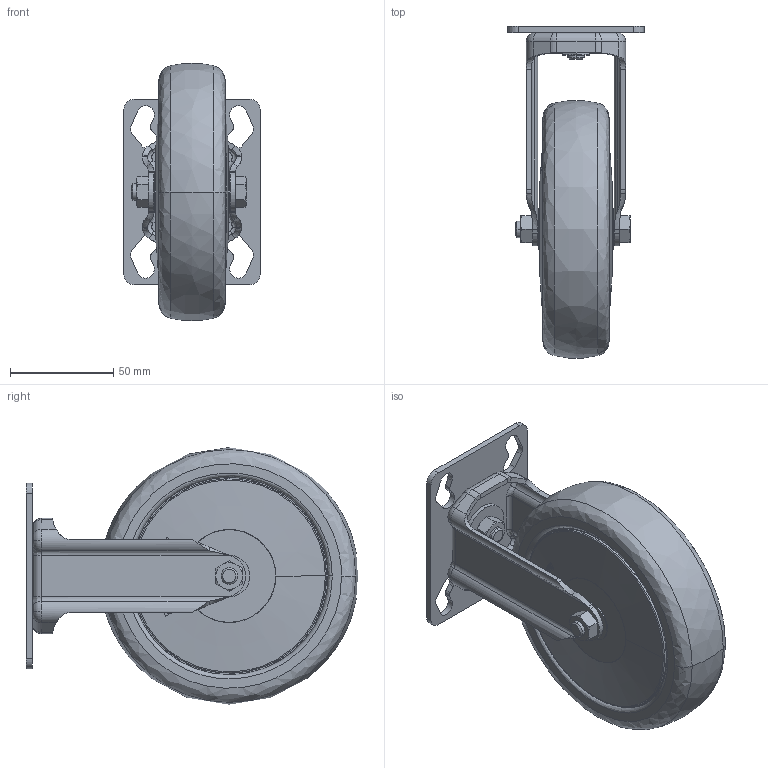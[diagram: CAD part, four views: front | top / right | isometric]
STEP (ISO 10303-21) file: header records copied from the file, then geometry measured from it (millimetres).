
FILE_DESCRIPTION (( 'STEP AP203' ), '1' );
FILE_NAME ('16597_BOC125MPLAANT.STEP', '2018-03-29T07:06:42', ( '' ), ( '' ), 'SwSTEP 2.0', 'SolidWorks 2017', '' );
FILE_SCHEMA (( 'CONFIG_CONTROL_DESIGN' ));
Products named in the file (1): 16597_BOC125MPLAANT
Bounding box: 66 x 160.86 x 124.71 mm (x, y, z)
Volume: 432273.5 mm3; surface area: 69184.8 mm2
Topology: 3 solids, 3 shells, 1064 faces, 2743 edges, 1767 vertices
Faces by surface type: plane 539, bspline 303, cylinder 102, cone 101, torus 19
Entity records: 51344 total; most frequent: CARTESIAN_POINT 28322, ORIENTED_EDGE 5474, DIRECTION 3447, EDGE_CURVE 2737, VERTEX_POINT 1767, LINE 1323, VECTOR 1323, EDGE_LOOP 1162
